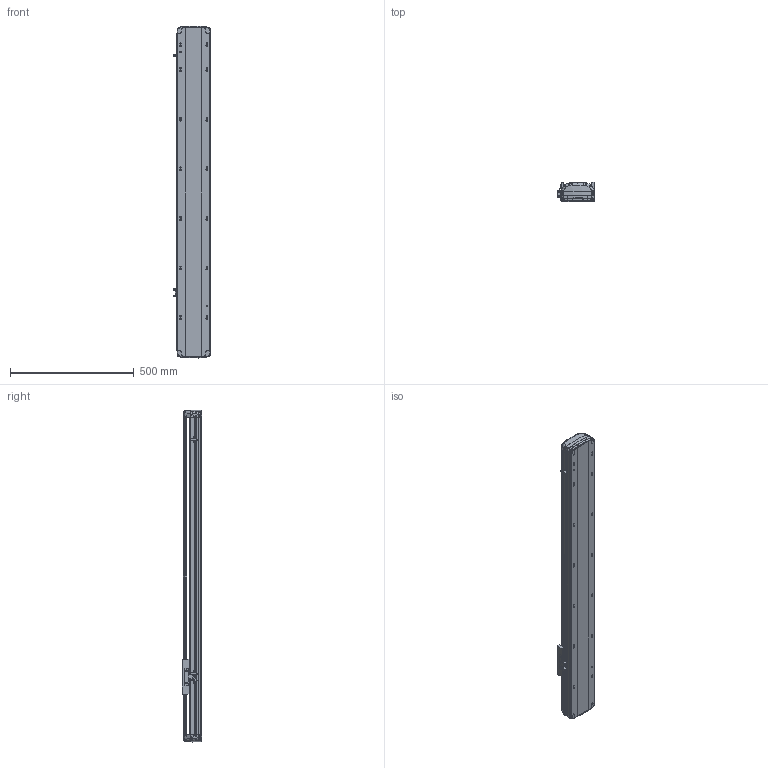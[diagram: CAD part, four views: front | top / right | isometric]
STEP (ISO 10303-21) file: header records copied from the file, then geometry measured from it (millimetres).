
FILE_DESCRIPTION (( 'STEP AP214' ), '1' );
FILE_NAME ('RTH14-XX-950-B-M20-C4.STEP', '2025-10-25T02:23:56', ( 'Microsoft' ), ( 'Microsoft' ), 'SwSTEP 2.0', 'SolidWorks 2018', '' );
FILE_SCHEMA (( 'AUTOMOTIVE_DESIGN' ));
Length unit declared in the file: millimetre
Products named in the file (7): N_RTH14-R-004-SFSR16賑釱^RTH14-XX-XX-B-M20-C4; N_OMRON EE-SX672 传感器^RTH14-XX-XX-B-M20-C4; N_RTH13-L-012感应片（外置）^RTH14-XX-XX-B-M20-C4; N_RTH14-B-007奻裔^RTH14-XX-XX-B-M20-C4; N_RTH14-GY-001P^RTH14-XX-XX-B-M20-C4; N_RTH14-B-011P菁釱^RTH14-XX-XX-B-M20-C4; RTH14-XX-950-B-M20-C4
Assembly tree (9 placements, depth 2):
  RTH14-XX-950-B-M20-C4
    N_RTH14-B-011P菁釱^RTH14-XX-XX-B-M20-C4
    N_RTH14-B-007奻裔^RTH14-XX-XX-B-M20-C4
    N_RTH13-L-012感应片（外置）^RTH14-XX-XX-B-M20-C4
    N_OMRON EE-SX672 传感器^RTH14-XX-XX-B-M20-C4  x3
    N_RTH14-R-004-SFSR16賑釱^RTH14-XX-XX-B-M20-C4
    N_RTH14-GY-001P^RTH14-XX-XX-B-M20-C4  x2
Bounding box: 148.5 x 78.02 x 1338.74 mm (x, y, z)
Volume: 5399473.6 mm3; surface area: 1239685.5 mm2
Topology: 9 solids, 9 shells, 1954 faces, 5512 edges, 3590 vertices
Faces by surface type: plane 987, cylinder 453, bspline 450, cone 56, torus 8
Entity records: 48032 total; most frequent: CARTESIAN_POINT 21194, ORIENTED_EDGE 6040, DIRECTION 4503, EDGE_CURVE 3020, VERTEX_POINT 1976, VECTOR 1683, LINE 1683, AXIS2_PLACEMENT_3D 1410
